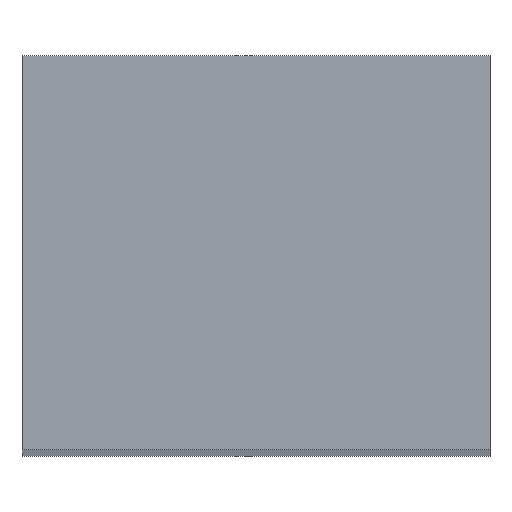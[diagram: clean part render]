
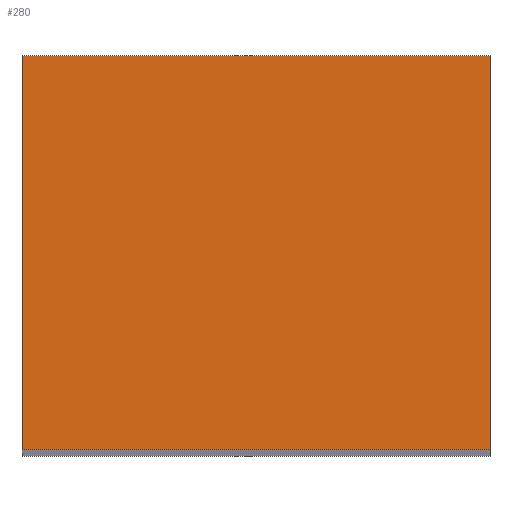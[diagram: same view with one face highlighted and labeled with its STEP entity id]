
A CAD part, top view. The second image highlights one B-rep face of the part: STEP entity #280.
In plain terms, the highlighted planar face has unit normal (0, 0, 1).
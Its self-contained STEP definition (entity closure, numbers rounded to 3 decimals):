
#23 = DIRECTION ( 'NONE',  ( 1., 0., 0. ) ) ;
#27 = FACE_OUTER_BOUND ( 'NONE', #235, .T. ) ;
#28 = EDGE_CURVE ( 'NONE', #225, #159, #98, .T. ) ;
#40 = EDGE_CURVE ( 'NONE', #159, #399, #412, .T. ) ;
#71 = CARTESIAN_POINT ( 'NONE',  ( -9.5, 8., 150. ) ) ;
#98 = LINE ( 'NONE', #439, #162 ) ;
#105 = CARTESIAN_POINT ( 'NONE',  ( 9.5, -8., 150. ) ) ;
#123 = DIRECTION ( 'NONE',  ( 1., 0., 0. ) ) ;
#125 = CARTESIAN_POINT ( 'NONE',  ( -9.5, -8., 150. ) ) ;
#138 = VECTOR ( 'NONE', #307, 1000. ) ;
#157 = ORIENTED_EDGE ( 'NONE', *, *, #40, .T. ) ;
#159 = VERTEX_POINT ( 'NONE', #384 ) ;
#162 = VECTOR ( 'NONE', #338, 1000. ) ;
#187 = LINE ( 'NONE', #325, #236 ) ;
#225 = VERTEX_POINT ( 'NONE', #105 ) ;
#235 = EDGE_LOOP ( 'NONE', ( #425, #157, #385, #285 ) ) ;
#236 = VECTOR ( 'NONE', #23, 1000. ) ;
#242 = VERTEX_POINT ( 'NONE', #125 ) ;
#247 = VECTOR ( 'NONE', #404, 1000. ) ;
#280 = ADVANCED_FACE ( 'NONE', ( #27 ), #395, .T. ) ;
#285 = ORIENTED_EDGE ( 'NONE', *, *, #352, .T. ) ;
#307 = DIRECTION ( 'NONE',  ( -1., 0., 0. ) ) ;
#324 = DIRECTION ( 'NONE',  ( 0., 0., 1. ) ) ;
#325 = CARTESIAN_POINT ( 'NONE',  ( -9.5, -8., 150. ) ) ;
#338 = DIRECTION ( 'NONE',  ( 0., 1., 0. ) ) ;
#352 = EDGE_CURVE ( 'NONE', #242, #225, #187, .T. ) ;
#374 = CARTESIAN_POINT ( 'NONE',  ( -9.5, 8., 150. ) ) ;
#377 = LINE ( 'NONE', #71, #247 ) ;
#384 = CARTESIAN_POINT ( 'NONE',  ( 9.5, 8., 150. ) ) ;
#385 = ORIENTED_EDGE ( 'NONE', *, *, #426, .T. ) ;
#395 = PLANE ( 'NONE',  #413 ) ;
#397 = CARTESIAN_POINT ( 'NONE',  ( 0., 0., 150. ) ) ;
#399 = VERTEX_POINT ( 'NONE', #374 ) ;
#404 = DIRECTION ( 'NONE',  ( 0., -1., 0. ) ) ;
#405 = CARTESIAN_POINT ( 'NONE',  ( -9.5, 8., 150. ) ) ;
#412 = LINE ( 'NONE', #405, #138 ) ;
#413 = AXIS2_PLACEMENT_3D ( 'NONE', #397, #324, #123 ) ;
#425 = ORIENTED_EDGE ( 'NONE', *, *, #28, .T. ) ;
#426 = EDGE_CURVE ( 'NONE', #399, #242, #377, .T. ) ;
#439 = CARTESIAN_POINT ( 'NONE',  ( 9.5, 8., 150. ) ) ;
